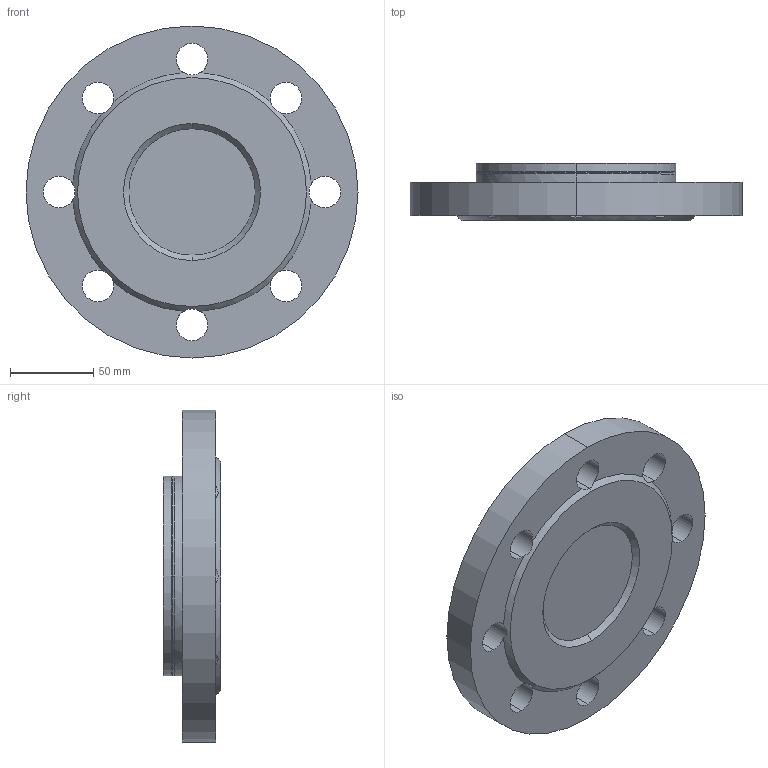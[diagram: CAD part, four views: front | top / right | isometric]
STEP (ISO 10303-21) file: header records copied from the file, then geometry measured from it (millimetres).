
FILE_DESCRIPTION (( 'STEP AP203' ), '1' );
FILE_NAME ('18018001.STEP', '2013-10-25T13:09:18', ( 'eb' ), ( '' ), 'SwSTEP 2.0', 'SolidWorks 2013', '' );
FILE_SCHEMA (( 'CONFIG_CONTROL_DESIGN' ));
Length unit declared in the file: inch
Products named in the file (1): 18018001
Bounding box: 200 x 34.37 x 200 mm (x, y, z)
Volume: 743081 mm3; surface area: 85643 mm2
Topology: 1 solids, 1 shells, 35 faces, 110 edges, 72 vertices
Faces by surface type: cylinder 22, cone 6, plane 5, bspline 2
Entity records: 1879 total; most frequent: CARTESIAN_POINT 776, DIRECTION 224, ORIENTED_EDGE 220, EDGE_CURVE 110, AXIS2_PLACEMENT_3D 98, VERTEX_POINT 72, CIRCLE 64, EDGE_LOOP 46
